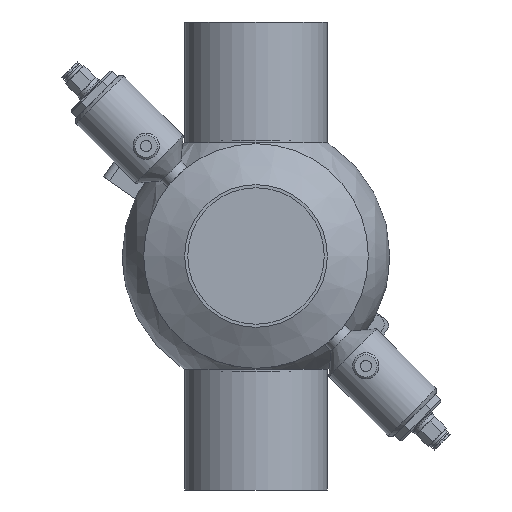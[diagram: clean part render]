
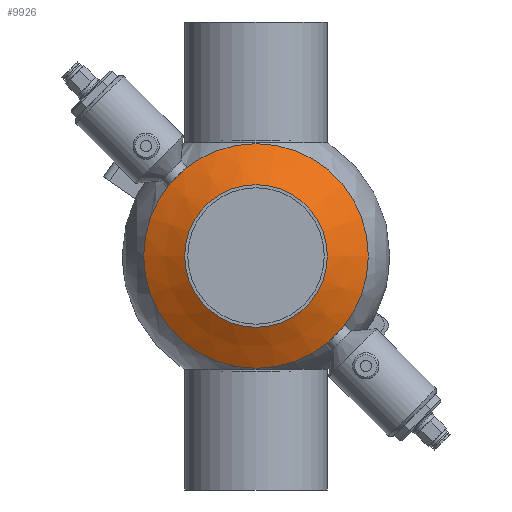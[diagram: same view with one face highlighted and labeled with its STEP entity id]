
A CAD part, front view. The second image highlights one B-rep face of the part: STEP entity #9926.
In plain terms, the highlighted conical face has half-angle 60 degrees and reference radius 60 mm.
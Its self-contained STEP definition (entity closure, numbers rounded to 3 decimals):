
#771 = AXIS2_PLACEMENT_3D ( 'NONE', #15228, #19290, #15691 ) ;
#3083 = DIRECTION ( 'NONE',  ( 0., 0., 1. ) ) ;
#4399 = ORIENTED_EDGE ( 'NONE', *, *, #19515, .T. ) ;
#4898 = DIRECTION ( 'NONE',  ( 0., 1., 0. ) ) ;
#5509 = AXIS2_PLACEMENT_3D ( 'NONE', #21077, #4898, #3083 ) ;
#6558 = EDGE_LOOP ( 'NONE', ( #12976 ) ) ;
#7068 = DIRECTION ( 'NONE',  ( 0., 0., 1. ) ) ;
#8355 = CARTESIAN_POINT ( 'NONE',  ( 0., -65., 60. ) ) ;
#9926 = ADVANCED_FACE ( 'NONE', ( #17596, #11929 ), #12733, .T. ) ;
#10740 = CARTESIAN_POINT ( 'NONE',  ( 0., -77.644, 0. ) ) ;
#11855 = EDGE_LOOP ( 'NONE', ( #4399 ) ) ;
#11929 = FACE_OUTER_BOUND ( 'NONE', #6558, .T. ) ;
#12733 = CONICAL_SURFACE ( 'NONE', #5509, 60., 1.047 ) ;
#12976 = ORIENTED_EDGE ( 'NONE', *, *, #18886, .F. ) ;
#13392 = CIRCLE ( 'NONE', #23360, 38.1 ) ;
#15228 = CARTESIAN_POINT ( 'NONE',  ( 0., -65., 0. ) ) ;
#15668 = CARTESIAN_POINT ( 'NONE',  ( 0., -77.644, 38.1 ) ) ;
#15691 = DIRECTION ( 'NONE',  ( 0., 0., 1. ) ) ;
#17596 = FACE_BOUND ( 'NONE', #11855, .T. ) ;
#17694 = VERTEX_POINT ( 'NONE', #8355 ) ;
#18886 = EDGE_CURVE ( 'NONE', #17694, #17694, #20274, .T. ) ;
#19290 = DIRECTION ( 'NONE',  ( 0., 1., 0. ) ) ;
#19498 = VERTEX_POINT ( 'NONE', #15668 ) ;
#19515 = EDGE_CURVE ( 'NONE', #19498, #19498, #13392, .T. ) ;
#20274 = CIRCLE ( 'NONE', #771, 60. ) ;
#21077 = CARTESIAN_POINT ( 'NONE',  ( 0., -65., 0. ) ) ;
#21317 = DIRECTION ( 'NONE',  ( 0., 1., 0. ) ) ;
#23360 = AXIS2_PLACEMENT_3D ( 'NONE', #10740, #21317, #7068 ) ;
